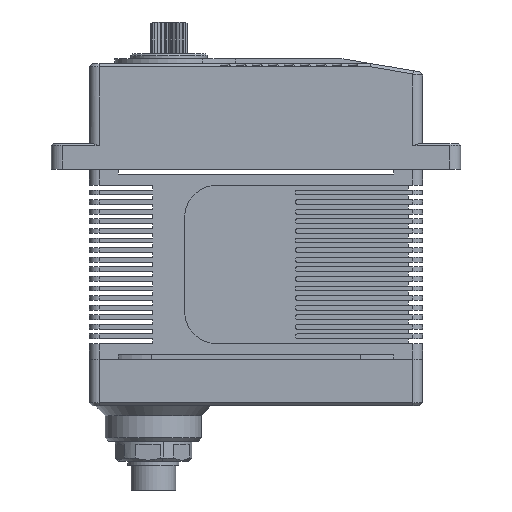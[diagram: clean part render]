
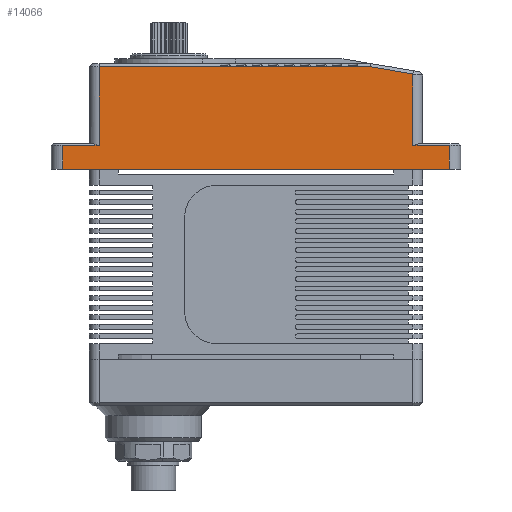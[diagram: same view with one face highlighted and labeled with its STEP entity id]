
A CAD part, front view. The second image highlights one B-rep face of the part: STEP entity #14066.
In plain terms, the highlighted planar face has unit normal (0, -1, 0).
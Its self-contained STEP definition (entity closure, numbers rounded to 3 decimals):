
#24 = CARTESIAN_POINT ( 'NONE',  ( -229.952, -17.057, -26.747 ) ) ;
#36 = ORIENTED_EDGE ( 'NONE', *, *, #34987, .F. ) ;
#400 = LINE ( 'NONE', #39949, #2420 ) ;
#619 = EDGE_CURVE ( 'NONE', #922, #13855, #18047, .T. ) ;
#922 = VERTEX_POINT ( 'NONE', #8000 ) ;
#1091 = ORIENTED_EDGE ( 'NONE', *, *, #5213, .F. ) ;
#1254 = LINE ( 'NONE', #24, #27813 ) ;
#1528 = EDGE_CURVE ( 'NONE', #37559, #23589, #25620, .T. ) ;
#2087 = CARTESIAN_POINT ( 'NONE',  ( -108.952, -17.057, -26.747 ) ) ;
#2154 = CARTESIAN_POINT ( 'NONE',  ( -229.952, -17.057, -20.247 ) ) ;
#2347 = EDGE_CURVE ( 'NONE', #23589, #24630, #20876, .T. ) ;
#2420 = VECTOR ( 'NONE', #3851, 1000. ) ;
#3851 = DIRECTION ( 'NONE',  ( 0., 0., 1. ) ) ;
#4155 = VECTOR ( 'NONE', #27597, 1000. ) ;
#5213 = EDGE_CURVE ( 'NONE', #10309, #11387, #38090, .T. ) ;
#8000 = CARTESIAN_POINT ( 'NONE',  ( -133.699, -17.057, 4.353 ) ) ;
#8904 = FACE_OUTER_BOUND ( 'NONE', #21911, .T. ) ;
#9492 = CARTESIAN_POINT ( 'NONE',  ( -108.952, -17.057, -27.747 ) ) ;
#9738 = EDGE_CURVE ( 'NONE', #13855, #37559, #32852, .T. ) ;
#10309 = VERTEX_POINT ( 'NONE', #2154 ) ;
#10389 = ORIENTED_EDGE ( 'NONE', *, *, #9738, .F. ) ;
#10714 = CARTESIAN_POINT ( 'NONE',  ( -218.552, -17.057, 4.353 ) ) ;
#10719 = ORIENTED_EDGE ( 'NONE', *, *, #1528, .F. ) ;
#11089 = VECTOR ( 'NONE', #16477, 1000. ) ;
#11167 = ORIENTED_EDGE ( 'NONE', *, *, #21026, .F. ) ;
#11387 = VERTEX_POINT ( 'NONE', #33221 ) ;
#11406 = ORIENTED_EDGE ( 'NONE', *, *, #30913, .F. ) ;
#11409 = ORIENTED_EDGE ( 'NONE', *, *, #619, .F. ) ;
#12462 = CARTESIAN_POINT ( 'NONE',  ( -120.352, -17.057, -26.747 ) ) ;
#12961 = CARTESIAN_POINT ( 'NONE',  ( -120.352, -17.057, -20.247 ) ) ;
#13029 = VERTEX_POINT ( 'NONE', #10714 ) ;
#13684 = VECTOR ( 'NONE', #18080, 1000. ) ;
#13855 = VERTEX_POINT ( 'NONE', #37354 ) ;
#14066 = ADVANCED_FACE ( 'NONE', ( #8904 ), #15644, .F. ) ;
#15472 = DIRECTION ( 'NONE',  ( 1., 0., 0. ) ) ;
#15644 = PLANE ( 'NONE',  #37164 ) ;
#15906 = DIRECTION ( 'NONE',  ( 0., 0., -1. ) ) ;
#16006 = DIRECTION ( 'NONE',  ( 0., 0., 1. ) ) ;
#16216 = DIRECTION ( 'NONE',  ( -1., 0., 0. ) ) ;
#16477 = DIRECTION ( 'NONE',  ( 1., 0., 0. ) ) ;
#16673 = LINE ( 'NONE', #32150, #28463 ) ;
#18047 = LINE ( 'NONE', #27914, #24721 ) ;
#18080 = DIRECTION ( 'NONE',  ( 0., 0., -1. ) ) ;
#20876 = LINE ( 'NONE', #2087, #13684 ) ;
#20943 = CARTESIAN_POINT ( 'NONE',  ( -212.652, -17.057, -20.247 ) ) ;
#21026 = EDGE_CURVE ( 'NONE', #13029, #922, #31074, .T. ) ;
#21911 = EDGE_LOOP ( 'NONE', ( #11409, #11167, #36, #1091, #24769, #11406, #23272, #10719, #10389 ) ) ;
#22528 = DIRECTION ( 'NONE',  ( -1., 0., 0. ) ) ;
#23272 = ORIENTED_EDGE ( 'NONE', *, *, #2347, .F. ) ;
#23589 = VERTEX_POINT ( 'NONE', #34344 ) ;
#24630 = VERTEX_POINT ( 'NONE', #9492 ) ;
#24721 = VECTOR ( 'NONE', #37731, 1000. ) ;
#24769 = ORIENTED_EDGE ( 'NONE', *, *, #41404, .F. ) ;
#25620 = LINE ( 'NONE', #40420, #4155 ) ;
#26161 = VECTOR ( 'NONE', #15906, 1000. ) ;
#27597 = DIRECTION ( 'NONE',  ( 1., 0., 0. ) ) ;
#27813 = VECTOR ( 'NONE', #16006, 1000. ) ;
#27914 = CARTESIAN_POINT ( 'NONE',  ( -133.699, -17.057, 4.353 ) ) ;
#28463 = VECTOR ( 'NONE', #22528, 1000. ) ;
#29224 = CARTESIAN_POINT ( 'NONE',  ( -212.652, -17.057, -26.747 ) ) ;
#30913 = EDGE_CURVE ( 'NONE', #24630, #41329, #16673, .T. ) ;
#31074 = LINE ( 'NONE', #36034, #11089 ) ;
#32150 = CARTESIAN_POINT ( 'NONE',  ( -212.652, -17.057, -27.747 ) ) ;
#32653 = CARTESIAN_POINT ( 'NONE',  ( -229.952, -17.057, -27.747 ) ) ;
#32852 = LINE ( 'NONE', #12462, #26161 ) ;
#33221 = CARTESIAN_POINT ( 'NONE',  ( -218.552, -17.057, -20.247 ) ) ;
#33575 = VECTOR ( 'NONE', #15472, 1000. ) ;
#34344 = CARTESIAN_POINT ( 'NONE',  ( -108.952, -17.057, -20.247 ) ) ;
#34987 = EDGE_CURVE ( 'NONE', #11387, #13029, #400, .T. ) ;
#36034 = CARTESIAN_POINT ( 'NONE',  ( -212.652, -17.057, 4.353 ) ) ;
#37164 = AXIS2_PLACEMENT_3D ( 'NONE', #29224, #38482, #16216 ) ;
#37354 = CARTESIAN_POINT ( 'NONE',  ( -120.352, -17.057, 2.113 ) ) ;
#37559 = VERTEX_POINT ( 'NONE', #12961 ) ;
#37731 = DIRECTION ( 'NONE',  ( 0.986, 0., -0.166 ) ) ;
#38090 = LINE ( 'NONE', #20943, #33575 ) ;
#38482 = DIRECTION ( 'NONE',  ( 0., 1., 0. ) ) ;
#39949 = CARTESIAN_POINT ( 'NONE',  ( -218.552, -17.057, -26.747 ) ) ;
#40420 = CARTESIAN_POINT ( 'NONE',  ( -212.652, -17.057, -20.247 ) ) ;
#41329 = VERTEX_POINT ( 'NONE', #32653 ) ;
#41404 = EDGE_CURVE ( 'NONE', #41329, #10309, #1254, .T. ) ;
